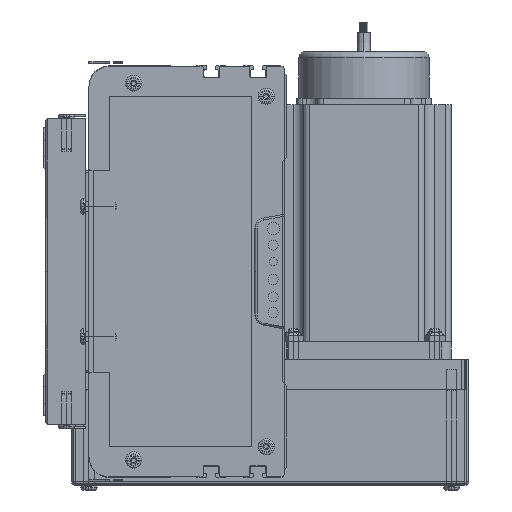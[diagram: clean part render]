
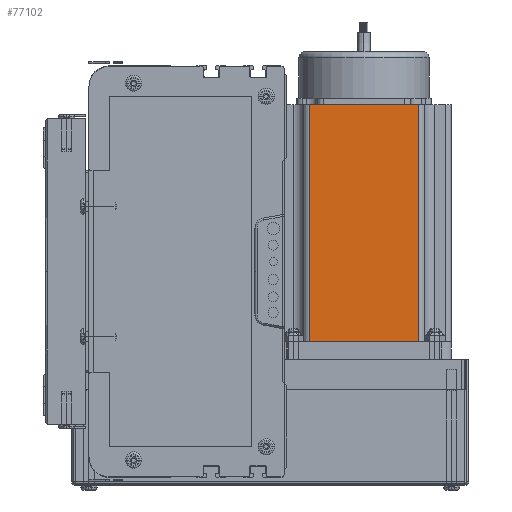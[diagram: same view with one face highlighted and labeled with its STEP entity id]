
A CAD part, left-side view. The second image highlights one B-rep face of the part: STEP entity #77102.
In plain terms, the highlighted planar face has unit normal (-1, 0, 0) as drawn and (0, -1, 0) by its records, which use the part's own axes.
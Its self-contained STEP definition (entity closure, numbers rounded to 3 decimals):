
#12711 = CARTESIAN_POINT ( 'NONE',  ( 69.74, 0., 116.5 ) ) ;
#12865 = DIRECTION ( 'NONE',  ( 1., 0., 0. ) ) ;
#12868 = VECTOR ( 'NONE', #12865, 1000. ) ;
#12874 = CARTESIAN_POINT ( 'NONE',  ( 0., 0., 0. ) ) ;
#12875 = LINE ( 'NONE', #12874, #12868 ) ;
#13133 = CARTESIAN_POINT ( 'NONE',  ( 69.74, 0., 0. ) ) ;
#13140 = CARTESIAN_POINT ( 'NONE',  ( 16.16, 0., 0. ) ) ;
#13151 = AXIS2_PLACEMENT_3D ( 'NONE', #13200, #13294, #13293 ) ;
#13200 = CARTESIAN_POINT ( 'NONE',  ( 0., 0., 116.5 ) ) ;
#13264 = DIRECTION ( 'NONE',  ( 1., 0., 0. ) ) ;
#13265 = VECTOR ( 'NONE', #13264, 1000. ) ;
#13274 = CARTESIAN_POINT ( 'NONE',  ( 0., 0., 116.5 ) ) ;
#13276 = LINE ( 'NONE', #13274, #13265 ) ;
#13280 = DIRECTION ( 'NONE',  ( 0., 0., 1. ) ) ;
#13282 = VECTOR ( 'NONE', #13280, 1000. ) ;
#13283 = CARTESIAN_POINT ( 'NONE',  ( 69.74, 0., 116.5 ) ) ;
#13284 = LINE ( 'NONE', #13283, #13282 ) ;
#13293 = DIRECTION ( 'NONE',  ( 0., 0., 1. ) ) ;
#13294 = DIRECTION ( 'NONE',  ( 0., 1., 0. ) ) ;
#13305 = PLANE ( 'NONE',  #13151 ) ;
#13310 = FACE_OUTER_BOUND ( 'NONE', #77096, .T. ) ;
#13355 = DIRECTION ( 'NONE',  ( 0., 0., -1. ) ) ;
#13356 = VECTOR ( 'NONE', #13355, 1000. ) ;
#13358 = CARTESIAN_POINT ( 'NONE',  ( 16.16, 0., 116.5 ) ) ;
#13361 = LINE ( 'NONE', #13358, #13356 ) ;
#13387 = CARTESIAN_POINT ( 'NONE',  ( 16.16, 0., 116.5 ) ) ;
#76845 = ORIENTED_EDGE ( 'NONE', *, *, #76978, .T. ) ;
#76977 = VERTEX_POINT ( 'NONE', #12711 ) ;
#76978 = EDGE_CURVE ( 'NONE', #77099, #77101, #12875, .T. ) ;
#77096 = EDGE_LOOP ( 'NONE', ( #76845, #77105, #77103, #77136 ) ) ;
#77099 = VERTEX_POINT ( 'NONE', #13140 ) ;
#77101 = VERTEX_POINT ( 'NONE', #13133 ) ;
#77102 = ADVANCED_FACE ( 'NONE', ( #13310 ), #13305, .F. ) ;
#77103 = ORIENTED_EDGE ( 'NONE', *, *, #77109, .F. ) ;
#77105 = ORIENTED_EDGE ( 'NONE', *, *, #77106, .T. ) ;
#77106 = EDGE_CURVE ( 'NONE', #77101, #76977, #13284, .T. ) ;
#77109 = EDGE_CURVE ( 'NONE', #77129, #76977, #13276, .T. ) ;
#77129 = VERTEX_POINT ( 'NONE', #13387 ) ;
#77131 = EDGE_CURVE ( 'NONE', #77129, #77099, #13361, .T. ) ;
#77136 = ORIENTED_EDGE ( 'NONE', *, *, #77131, .T. ) ;
